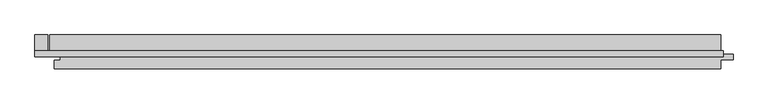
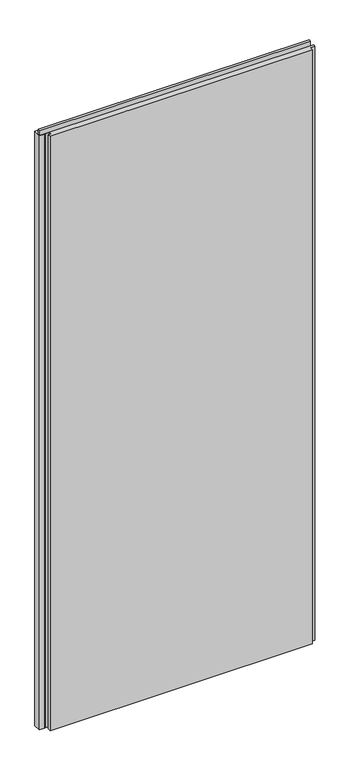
"""IFC4 building model written with IfcOpenShell, lengths in millimetres: plate geometry, Trimo_Qbiss Screen_Normal Panel-VERTICAL : HR - FB."""

from ifc_helpers import new_model, si_unit, frame, origin, place, context, project, spatial, polyline, outline, extrude, source, transform, mapped, element, save


def plate_801de16a(model_context):
    return source(origin(), model_context, "Body", "SweptSolid", [
        extrude(outline(polyline([(-523.0, 97.0), (-523.0, 126.0), (-504.0, 126.0), (-504.0, 97.0), (-523.0, 97.0)])), frame((0.0, 0.0, 12.5), z_axis=(0.0, 0.0, 1.0), x_axis=(1.0, 0.0, 0.0)), (0.0, 0.0, 1.0), 2375.0),
        extrude(outline(polyline([(-523.0, 93.9), (-523.0, 102.6), (500.0, 102.6), (500.0, 93.9), (-523.0, 93.9)])), frame((0.0, 0.0, 2390.5), z_axis=(0.0, 0.0, 1.0), x_axis=(1.0, 0.0, 0.0)), (0.0, 0.0, 1.0), 19.0),
        extrude(outline(polyline([(496.0, 97.0), (514.5, 97.0), (514.5, 89.0), (496.0, 89.0), (496.0, 76.0), (-494.0, 76.0), (-494.0, 88.0), (-485.5, 88.0), (-485.5, 98.0), (-501.0, 98.0), (-501.0, 126.0), (496.0, 126.0), (496.0, 97.0)])), frame((0.0, 0.0, 12.5), z_axis=(0.0, 0.0, 1.0), x_axis=(1.0, 0.0, 0.0)), (0.0, 0.0, 1.0), 2375.0),
    ])


if __name__ == "__main__":
    model = new_model("IFC4")
    model_context = context("Model", 3, world=origin())
    ifc_project = project(units=[si_unit("LENGTHUNIT", "METRE", prefix="MILLI")], contexts=[model_context])
    site = spatial("IfcSite", under=ifc_project)
    building = spatial("IfcBuilding", under=site)
    placement = place(None, origin())
    plate_shape = plate_801de16a(model_context)
    element("IfcPlate", 1, ObjectType="Trimo_Qbiss Screen_Normal Panel-VERTICAL : HR - FB", at=placement, inside=building, context=model_context, shape_type="MappedRepresentation", body=[
        mapped(plate_shape, transform((0.0, 0.0, 0.0), x_axis=(1.0, 0.0, 0.0), y_axis=(0.0, 1.0, 0.0), z_axis=(0.0, 0.0, 1.0))),
    ])
    save(model, "model.ifc")
